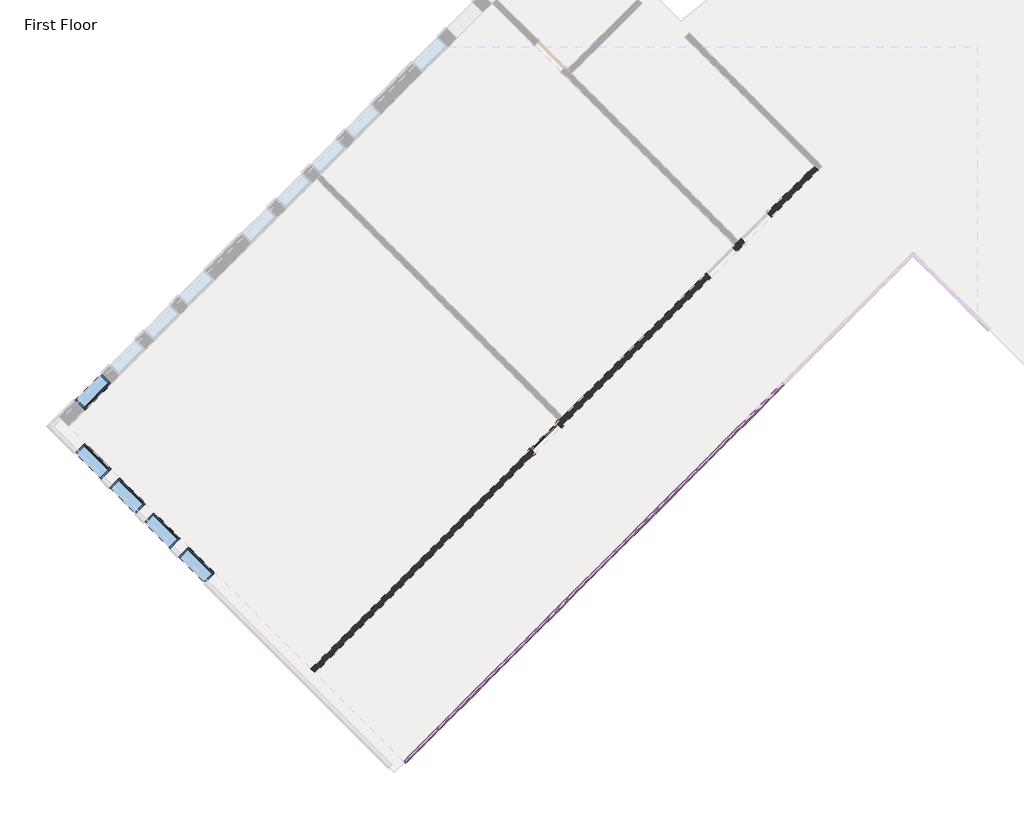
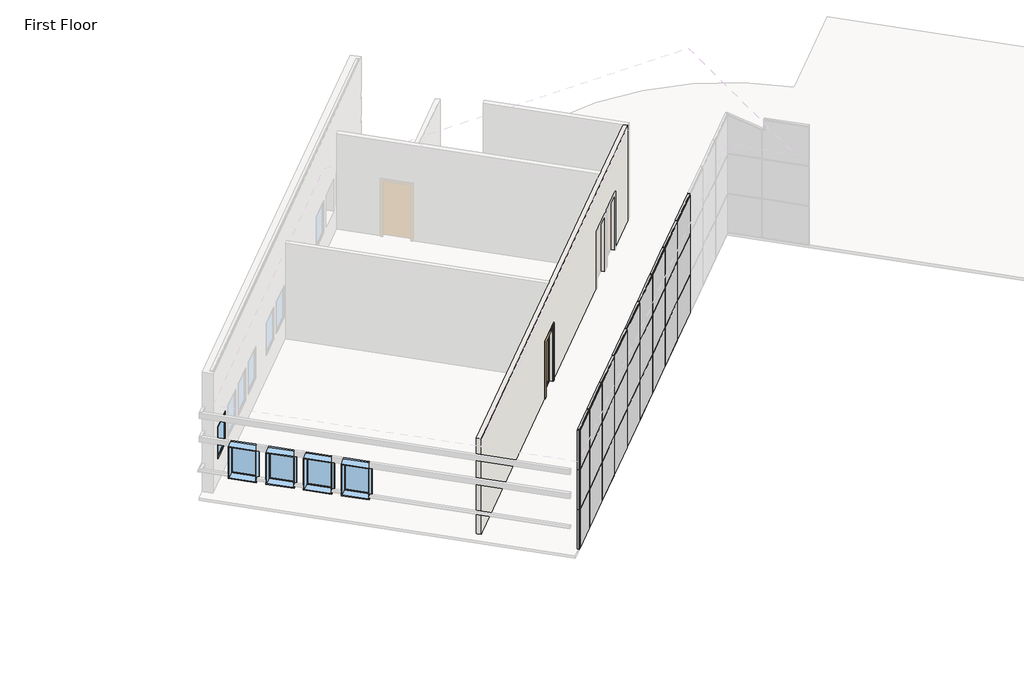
# One storey, part 1 of 5: 65 members, 27 plates, 5 windows, 1 door, 1 wall.
"""IFC4 building model written with IfcOpenShell, lengths in millimetres."""

from ifc_helpers import new_model, si_unit, origin, place, context, project, spatial, faceted_brep, transform, mapped, element, save
from components import door_b81abb0e, member_6121af53, member_155beb68, member_bd80eb51, member_42be4715, member_a3731390, member_b87a50da, system_panel_glazed_da345f4e, system_panel_glazed_f1e4c5b0, system_panel_glazed_b4114ee2, system_panel_glazed_dc791129, system_panel_solid_2f1037e2, system_panel_solid_6e0f4c8d, window_15c49d37, window_0e2fc6ce

model = new_model("IFC4")

# Units and contexts
model_context = context("Model", 3, world=origin())
ifc_project = project(units=[si_unit("LENGTHUNIT", "METRE", prefix="MILLI")], contexts=[model_context])

# Site, building, storey
site = spatial("IfcSite", under=ifc_project)
building = spatial("IfcBuilding", under=site)
storey = spatial("IfcBuildingStorey", under=building, Name="First Floor", Elevation=0.0)

# Door
placement = place(None, origin())
door_shape = door_b81abb0e(model_context)
element("IfcDoor", 1, ObjectType="Single-Glass 1 : 36\" x 84\"", at=placement, inside=storey, context=model_context, shape_type="MappedRepresentation", body=[
    mapped(door_shape, transform((-12027.7718255, -1647.4849877, 0.0), x_axis=(0.7071067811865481, 0.7071067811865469, 0.0), y_axis=(-0.7071067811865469, 0.7071067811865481, 0.0), z_axis=(0.0, 0.0, 1.0))),
])

# Members
member_shape = member_6121af53(model_context)
element("IfcMember", 2, ObjectType="Rectangular Mullion : 1.5\" x 2.5\" Rectangular", at=placement, inside=storey, context=model_context, shape_type="MappedRepresentation", body=[
    mapped(member_shape, transform((-10397.9731218, -4577.4113295, 4572.0), x_axis=(0.0, 0.0, 1.0), y_axis=(-0.7071067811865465, 0.7071067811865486, 0.0), z_axis=(-0.7071067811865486, -0.7071067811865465, 0.0))),
])
element("IfcMember", 3, ObjectType="Rectangular Mullion : 1.5\" x 2.5\" Rectangular", at=placement, inside=storey, context=model_context, shape_type="MappedRepresentation", body=[
    mapped(member_shape, transform((-11475.6038564, -5655.042064, 4572.0), x_axis=(0.0, 0.0, 1.0), y_axis=(-0.7071067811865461, 0.707106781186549, 0.0), z_axis=(-0.7071067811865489, -0.707106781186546, 0.0))),
])
element("IfcMember", 4, ObjectType="Rectangular Mullion : 1.5\" x 2.5\" Rectangular", at=placement, inside=storey, context=model_context, shape_type="MappedRepresentation", body=[
    mapped(member_shape, transform((-12553.2345909, -6732.6727986, 4572.0), x_axis=(0.0, 0.0, 1.0), y_axis=(-0.7071067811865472, 0.7071067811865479, 0.0), z_axis=(-0.7071067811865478, -0.7071067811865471, 0.0))),
])
element("IfcMember", 5, ObjectType="Rectangular Mullion : 1.5\" x 2.5\" Rectangular", at=placement, inside=storey, context=model_context, shape_type="MappedRepresentation", body=[
    mapped(member_shape, transform((-13630.8653254, -7810.3035331, 4572.0), x_axis=(0.0, 0.0, 1.0), y_axis=(-0.7071067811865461, 0.707106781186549, 0.0), z_axis=(-0.707106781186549, -0.7071067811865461, 0.0))),
])
element("IfcMember", 6, ObjectType="Rectangular Mullion : 1.5\" x 2.5\" Rectangular", at=placement, inside=storey, context=model_context, shape_type="MappedRepresentation", body=[
    mapped(member_shape, transform((-14708.4960599, -8887.9342676, 4572.0), x_axis=(0.0, 0.0, 1.0), y_axis=(-0.7071067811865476, 0.7071067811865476, 0.0), z_axis=(-0.7071067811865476, -0.7071067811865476, 0.0))),
])
element("IfcMember", 7, ObjectType="Rectangular Mullion : 1.5\" x 2.5\" Rectangular", at=placement, inside=storey, context=model_context, shape_type="MappedRepresentation", body=[
    mapped(member_shape, transform((-7165.0809182, -1344.5191259, 4572.0), x_axis=(0.0, 0.0, 1.0), y_axis=(-0.7071067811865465, 0.7071067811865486, 0.0), z_axis=(-0.7071067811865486, -0.7071067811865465, 0.0))),
])
element("IfcMember", 8, ObjectType="Rectangular Mullion : 1.5\" x 2.5\" Rectangular", at=placement, inside=storey, context=model_context, shape_type="MappedRepresentation", body=[
    mapped(member_shape, transform((-8242.7116528, -2422.1498604, 4572.0), x_axis=(0.0, 0.0, 1.0), y_axis=(-0.7071067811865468, 0.7071067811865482, 0.0), z_axis=(-0.7071067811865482, -0.7071067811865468, 0.0))),
])
element("IfcMember", 9, ObjectType="Rectangular Mullion : 1.5\" x 2.5\" Rectangular", at=placement, inside=storey, context=model_context, shape_type="MappedRepresentation", body=[
    mapped(member_shape, transform((-9320.3423873, -3499.780595, 4572.0), x_axis=(0.0, 0.0, 1.0), y_axis=(-0.7071067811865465, 0.7071067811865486, 0.0), z_axis=(-0.7071067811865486, -0.7071067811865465, 0.0))),
])
member_2_shape = member_155beb68(model_context)
element("IfcMember", 10, ObjectType="Rectangular Mullion : 1.5\" x 2.5\" Rectangular", at=placement, inside=storey, context=model_context, shape_type="MappedRepresentation", body=[
    mapped(member_2_shape, transform((-6100.9205679, -280.3587756, 1524.0), x_axis=(-0.7071067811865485, -0.7071067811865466, 0.0), y_axis=(-0.7071067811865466, 0.7071067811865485, 0.0), z_axis=(0.0, 0.0, -1.0))),
])
element("IfcMember", 11, ObjectType="Rectangular Mullion : 1.5\" x 2.5\" Rectangular", at=placement, inside=storey, context=model_context, shape_type="MappedRepresentation", body=[
    mapped(member_2_shape, transform((-7178.5513024, -1357.9895101, 1524.0), x_axis=(-0.7071067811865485, -0.7071067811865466, 0.0), y_axis=(-0.7071067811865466, 0.7071067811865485, 0.0), z_axis=(0.0, 0.0, -1.0))),
])
element("IfcMember", 12, ObjectType="Rectangular Mullion : 1.5\" x 2.5\" Rectangular", at=placement, inside=storey, context=model_context, shape_type="MappedRepresentation", body=[
    mapped(member_2_shape, transform((-8256.1820369, -2435.6202446, 1524.0), x_axis=(-0.7071067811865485, -0.7071067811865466, 0.0), y_axis=(-0.7071067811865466, 0.7071067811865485, 0.0), z_axis=(0.0, 0.0, -1.0))),
])
element("IfcMember", 13, ObjectType="Rectangular Mullion : 1.5\" x 2.5\" Rectangular", at=placement, inside=storey, context=model_context, shape_type="MappedRepresentation", body=[
    mapped(member_2_shape, transform((-9333.8127715, -3513.2509792, 1524.0), x_axis=(-0.7071067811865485, -0.7071067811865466, 0.0), y_axis=(-0.7071067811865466, 0.7071067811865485, 0.0), z_axis=(0.0, 0.0, -1.0))),
])
element("IfcMember", 14, ObjectType="Rectangular Mullion : 1.5\" x 2.5\" Rectangular", at=placement, inside=storey, context=model_context, shape_type="MappedRepresentation", body=[
    mapped(member_2_shape, transform((-10411.443506, -4590.8817137, 1524.0), x_axis=(-0.7071067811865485, -0.7071067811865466, 0.0), y_axis=(-0.7071067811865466, 0.7071067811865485, 0.0), z_axis=(0.0, 0.0, -1.0))),
])
element("IfcMember", 15, ObjectType="Rectangular Mullion : 1.5\" x 2.5\" Rectangular", at=placement, inside=storey, context=model_context, shape_type="MappedRepresentation", body=[
    mapped(member_2_shape, transform((-11489.0742405, -5668.5124482, 1524.0), x_axis=(-0.7071067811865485, -0.7071067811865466, 0.0), y_axis=(-0.7071067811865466, 0.7071067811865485, 0.0), z_axis=(0.0, 0.0, -1.0))),
])
element("IfcMember", 16, ObjectType="Rectangular Mullion : 1.5\" x 2.5\" Rectangular", at=placement, inside=storey, context=model_context, shape_type="MappedRepresentation", body=[
    mapped(member_2_shape, transform((-12566.7049751, -6746.1431827, 1524.0), x_axis=(-0.7071067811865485, -0.7071067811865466, 0.0), y_axis=(-0.7071067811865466, 0.7071067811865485, 0.0), z_axis=(0.0, 0.0, -1.0))),
])
element("IfcMember", 17, ObjectType="Rectangular Mullion : 1.5\" x 2.5\" Rectangular", at=placement, inside=storey, context=model_context, shape_type="MappedRepresentation", body=[
    mapped(member_2_shape, transform((-13644.3357096, -7823.7739173, 1524.0), x_axis=(-0.7071067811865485, -0.7071067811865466, 0.0), y_axis=(-0.7071067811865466, 0.7071067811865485, 0.0), z_axis=(0.0, 0.0, -1.0))),
])
element("IfcMember", 18, ObjectType="Rectangular Mullion : 1.5\" x 2.5\" Rectangular", at=placement, inside=storey, context=model_context, shape_type="MappedRepresentation", body=[
    mapped(member_2_shape, transform((-14721.9664441, -8901.4046518, 1524.0), x_axis=(-0.7071067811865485, -0.7071067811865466, 0.0), y_axis=(-0.7071067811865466, 0.7071067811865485, 0.0), z_axis=(0.0, 0.0, -1.0))),
])
element("IfcMember", 19, ObjectType="Rectangular Mullion : 1.5\" x 2.5\" Rectangular", at=placement, inside=storey, context=model_context, shape_type="MappedRepresentation", body=[
    mapped(member_2_shape, transform((-6100.9205679, -280.3587756, 3048.0), x_axis=(-0.7071067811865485, -0.7071067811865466, 0.0), y_axis=(-0.7071067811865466, 0.7071067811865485, 0.0), z_axis=(0.0, 0.0, -1.0))),
])
element("IfcMember", 20, ObjectType="Rectangular Mullion : 1.5\" x 2.5\" Rectangular", at=placement, inside=storey, context=model_context, shape_type="MappedRepresentation", body=[
    mapped(member_2_shape, transform((-7178.5513024, -1357.9895101, 3048.0), x_axis=(-0.7071067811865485, -0.7071067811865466, 0.0), y_axis=(-0.7071067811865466, 0.7071067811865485, 0.0), z_axis=(0.0, 0.0, -1.0))),
])
element("IfcMember", 21, ObjectType="Rectangular Mullion : 1.5\" x 2.5\" Rectangular", at=placement, inside=storey, context=model_context, shape_type="MappedRepresentation", body=[
    mapped(member_2_shape, transform((-8256.1820369, -2435.6202446, 3048.0), x_axis=(-0.7071067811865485, -0.7071067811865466, 0.0), y_axis=(-0.7071067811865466, 0.7071067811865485, 0.0), z_axis=(0.0, 0.0, -1.0))),
])
element("IfcMember", 22, ObjectType="Rectangular Mullion : 1.5\" x 2.5\" Rectangular", at=placement, inside=storey, context=model_context, shape_type="MappedRepresentation", body=[
    mapped(member_2_shape, transform((-9333.8127715, -3513.2509792, 3048.0), x_axis=(-0.7071067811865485, -0.7071067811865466, 0.0), y_axis=(-0.7071067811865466, 0.7071067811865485, 0.0), z_axis=(0.0, 0.0, -1.0))),
])
element("IfcMember", 23, ObjectType="Rectangular Mullion : 1.5\" x 2.5\" Rectangular", at=placement, inside=storey, context=model_context, shape_type="MappedRepresentation", body=[
    mapped(member_2_shape, transform((-10411.443506, -4590.8817137, 3048.0), x_axis=(-0.7071067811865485, -0.7071067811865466, 0.0), y_axis=(-0.7071067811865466, 0.7071067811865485, 0.0), z_axis=(0.0, 0.0, -1.0))),
])
element("IfcMember", 24, ObjectType="Rectangular Mullion : 1.5\" x 2.5\" Rectangular", at=placement, inside=storey, context=model_context, shape_type="MappedRepresentation", body=[
    mapped(member_2_shape, transform((-11489.0742405, -5668.5124482, 3048.0), x_axis=(-0.7071067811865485, -0.7071067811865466, 0.0), y_axis=(-0.7071067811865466, 0.7071067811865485, 0.0), z_axis=(0.0, 0.0, -1.0))),
])
element("IfcMember", 25, ObjectType="Rectangular Mullion : 1.5\" x 2.5\" Rectangular", at=placement, inside=storey, context=model_context, shape_type="MappedRepresentation", body=[
    mapped(member_2_shape, transform((-12566.7049751, -6746.1431827, 3048.0), x_axis=(-0.7071067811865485, -0.7071067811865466, 0.0), y_axis=(-0.7071067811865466, 0.7071067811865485, 0.0), z_axis=(0.0, 0.0, -1.0))),
])
element("IfcMember", 26, ObjectType="Rectangular Mullion : 1.5\" x 2.5\" Rectangular", at=placement, inside=storey, context=model_context, shape_type="MappedRepresentation", body=[
    mapped(member_2_shape, transform((-13644.3357096, -7823.7739173, 3048.0), x_axis=(-0.7071067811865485, -0.7071067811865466, 0.0), y_axis=(-0.7071067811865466, 0.7071067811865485, 0.0), z_axis=(0.0, 0.0, -1.0))),
])
element("IfcMember", 27, ObjectType="Rectangular Mullion : 1.5\" x 2.5\" Rectangular", at=placement, inside=storey, context=model_context, shape_type="MappedRepresentation", body=[
    mapped(member_2_shape, transform((-14721.9664441, -8901.4046518, 3048.0), x_axis=(-0.7071067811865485, -0.7071067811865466, 0.0), y_axis=(-0.7071067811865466, 0.7071067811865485, 0.0), z_axis=(0.0, 0.0, -1.0))),
])
member_3_shape = member_bd80eb51(model_context)
element("IfcMember", 28, ObjectType="Rectangular Mullion : 1.5\" x 2.5\" Rectangular", at=placement, inside=storey, context=model_context, shape_type="MappedRepresentation", body=[
    mapped(member_3_shape, transform((-15523.4543029, -9702.8925106, 4572.0), x_axis=(0.0, 0.0, 1.0), y_axis=(-0.7071067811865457, 0.7071067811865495, 0.0), z_axis=(-0.7071067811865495, -0.7071067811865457, 0.0))),
])
element("IfcMember", 29, ObjectType="Rectangular Mullion : 1.5\" x 2.5\" Rectangular", at=placement, inside=storey, context=model_context, shape_type="MappedRepresentation", body=[
    mapped(member_2_shape, transform((-13644.3357096, -7823.7739173, 0.0), x_axis=(-0.7071067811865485, -0.7071067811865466, 0.0), y_axis=(-0.7071067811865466, 0.7071067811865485, 0.0), z_axis=(0.0, 0.0, -1.0))),
])
element("IfcMember", 30, ObjectType="Rectangular Mullion : 1.5\" x 2.5\" Rectangular", at=placement, inside=storey, context=model_context, shape_type="MappedRepresentation", body=[
    mapped(member_2_shape, transform((-14721.9664441, -8901.4046518, 0.0), x_axis=(-0.7071067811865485, -0.7071067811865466, 0.0), y_axis=(-0.7071067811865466, 0.7071067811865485, 0.0), z_axis=(0.0, 0.0, -1.0))),
])
element("IfcMember", 31, ObjectType="Rectangular Mullion : 1.5\" x 2.5\" Rectangular", at=placement, inside=storey, context=model_context, shape_type="MappedRepresentation", body=[
    mapped(member_2_shape, transform((-7178.5513024, -1357.9895101, 0.0), x_axis=(-0.7071067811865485, -0.7071067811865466, 0.0), y_axis=(-0.7071067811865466, 0.7071067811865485, 0.0), z_axis=(0.0, 0.0, -1.0))),
])
element("IfcMember", 32, ObjectType="Rectangular Mullion : 1.5\" x 2.5\" Rectangular", at=placement, inside=storey, context=model_context, shape_type="MappedRepresentation", body=[
    mapped(member_2_shape, transform((-8256.1820369, -2435.6202446, 0.0), x_axis=(-0.7071067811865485, -0.7071067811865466, 0.0), y_axis=(-0.7071067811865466, 0.7071067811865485, 0.0), z_axis=(0.0, 0.0, -1.0))),
])
element("IfcMember", 33, ObjectType="Rectangular Mullion : 1.5\" x 2.5\" Rectangular", at=placement, inside=storey, context=model_context, shape_type="MappedRepresentation", body=[
    mapped(member_2_shape, transform((-9333.8127715, -3513.2509792, 0.0), x_axis=(-0.7071067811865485, -0.7071067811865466, 0.0), y_axis=(-0.7071067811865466, 0.7071067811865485, 0.0), z_axis=(0.0, 0.0, -1.0))),
])
element("IfcMember", 34, ObjectType="Rectangular Mullion : 1.5\" x 2.5\" Rectangular", at=placement, inside=storey, context=model_context, shape_type="MappedRepresentation", body=[
    mapped(member_2_shape, transform((-10411.443506, -4590.8817137, 0.0), x_axis=(-0.7071067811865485, -0.7071067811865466, 0.0), y_axis=(-0.7071067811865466, 0.7071067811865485, 0.0), z_axis=(0.0, 0.0, -1.0))),
])
element("IfcMember", 35, ObjectType="Rectangular Mullion : 1.5\" x 2.5\" Rectangular", at=placement, inside=storey, context=model_context, shape_type="MappedRepresentation", body=[
    mapped(member_2_shape, transform((-11489.0742405, -5668.5124482, 0.0), x_axis=(-0.7071067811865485, -0.7071067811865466, 0.0), y_axis=(-0.7071067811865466, 0.7071067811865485, 0.0), z_axis=(0.0, 0.0, -1.0))),
])
element("IfcMember", 36, ObjectType="Rectangular Mullion : 1.5\" x 2.5\" Rectangular", at=placement, inside=storey, context=model_context, shape_type="MappedRepresentation", body=[
    mapped(member_2_shape, transform((-12566.7049751, -6746.1431827, 0.0), x_axis=(-0.7071067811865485, -0.7071067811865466, 0.0), y_axis=(-0.7071067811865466, 0.7071067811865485, 0.0), z_axis=(0.0, 0.0, -1.0))),
])
member_4_shape = member_42be4715(model_context)
element("IfcMember", 37, ObjectType="Rectangular Mullion : 1.5\" x 2.5\" Rectangular", at=placement, inside=storey, context=model_context, shape_type="MappedRepresentation", body=[
    mapped(member_4_shape, transform((-6087.4501837, -266.8883914, 3048.0), x_axis=(0.0, 0.0, 1.0), y_axis=(-0.7071067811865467, 0.7071067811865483, 0.0), z_axis=(-0.7071067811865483, -0.7071067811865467, 0.0))),
])
element("IfcMember", 38, ObjectType="Rectangular Mullion : 1.5\" x 2.5\" Rectangular", at=placement, inside=storey, context=model_context, shape_type="MappedRepresentation", body=[
    mapped(member_4_shape, transform((-7165.0809182, -1344.5191259, 3048.0), x_axis=(0.0, 0.0, 1.0), y_axis=(-0.7071067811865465, 0.7071067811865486, 0.0), z_axis=(-0.7071067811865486, -0.7071067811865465, 0.0))),
])
element("IfcMember", 39, ObjectType="Rectangular Mullion : 1.5\" x 2.5\" Rectangular", at=placement, inside=storey, context=model_context, shape_type="MappedRepresentation", body=[
    mapped(member_4_shape, transform((-8242.7116528, -2422.1498604, 3048.0), x_axis=(0.0, 0.0, 1.0), y_axis=(-0.7071067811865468, 0.7071067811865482, 0.0), z_axis=(-0.7071067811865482, -0.7071067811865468, 0.0))),
])
element("IfcMember", 40, ObjectType="Rectangular Mullion : 1.5\" x 2.5\" Rectangular", at=placement, inside=storey, context=model_context, shape_type="MappedRepresentation", body=[
    mapped(member_4_shape, transform((-9320.3423873, -3499.780595, 3048.0), x_axis=(0.0, 0.0, 1.0), y_axis=(-0.7071067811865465, 0.7071067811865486, 0.0), z_axis=(-0.7071067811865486, -0.7071067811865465, 0.0))),
])
element("IfcMember", 41, ObjectType="Rectangular Mullion : 1.5\" x 2.5\" Rectangular", at=placement, inside=storey, context=model_context, shape_type="MappedRepresentation", body=[
    mapped(member_4_shape, transform((-10397.9731218, -4577.4113295, 3048.0), x_axis=(0.0, 0.0, 1.0), y_axis=(-0.7071067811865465, 0.7071067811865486, 0.0), z_axis=(-0.7071067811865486, -0.7071067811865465, 0.0))),
])
element("IfcMember", 42, ObjectType="Rectangular Mullion : 1.5\" x 2.5\" Rectangular", at=placement, inside=storey, context=model_context, shape_type="MappedRepresentation", body=[
    mapped(member_4_shape, transform((-11475.6038564, -5655.042064, 3048.0), x_axis=(0.0, 0.0, 1.0), y_axis=(-0.7071067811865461, 0.707106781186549, 0.0), z_axis=(-0.7071067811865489, -0.707106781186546, 0.0))),
])
element("IfcMember", 43, ObjectType="Rectangular Mullion : 1.5\" x 2.5\" Rectangular", at=placement, inside=storey, context=model_context, shape_type="MappedRepresentation", body=[
    mapped(member_4_shape, transform((-12553.2345909, -6732.6727986, 3048.0), x_axis=(0.0, 0.0, 1.0), y_axis=(-0.7071067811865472, 0.7071067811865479, 0.0), z_axis=(-0.7071067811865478, -0.7071067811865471, 0.0))),
])
element("IfcMember", 44, ObjectType="Rectangular Mullion : 1.5\" x 2.5\" Rectangular", at=placement, inside=storey, context=model_context, shape_type="MappedRepresentation", body=[
    mapped(member_4_shape, transform((-7165.0809182, -1344.5191259, 1524.0), x_axis=(0.0, 0.0, 1.0), y_axis=(-0.7071067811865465, 0.7071067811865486, 0.0), z_axis=(-0.7071067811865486, -0.7071067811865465, 0.0))),
])
element("IfcMember", 45, ObjectType="Rectangular Mullion : 1.5\" x 2.5\" Rectangular", at=placement, inside=storey, context=model_context, shape_type="MappedRepresentation", body=[
    mapped(member_4_shape, transform((-8242.7116528, -2422.1498604, 1524.0), x_axis=(0.0, 0.0, 1.0), y_axis=(-0.7071067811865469, 0.7071067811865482, 0.0), z_axis=(-0.7071067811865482, -0.7071067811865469, 0.0))),
])
element("IfcMember", 46, ObjectType="Rectangular Mullion : 1.5\" x 2.5\" Rectangular", at=placement, inside=storey, context=model_context, shape_type="MappedRepresentation", body=[
    mapped(member_4_shape, transform((-9320.3423873, -3499.780595, 1524.0), x_axis=(0.0, 0.0, 1.0), y_axis=(-0.7071067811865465, 0.7071067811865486, 0.0), z_axis=(-0.7071067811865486, -0.7071067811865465, 0.0))),
])
element("IfcMember", 47, ObjectType="Rectangular Mullion : 1.5\" x 2.5\" Rectangular", at=placement, inside=storey, context=model_context, shape_type="MappedRepresentation", body=[
    mapped(member_4_shape, transform((-10397.9731218, -4577.4113295, 1524.0), x_axis=(0.0, 0.0, 1.0), y_axis=(-0.7071067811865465, 0.7071067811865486, 0.0), z_axis=(-0.7071067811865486, -0.7071067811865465, 0.0))),
])
element("IfcMember", 48, ObjectType="Rectangular Mullion : 1.5\" x 2.5\" Rectangular", at=placement, inside=storey, context=model_context, shape_type="MappedRepresentation", body=[
    mapped(member_4_shape, transform((-11475.6038564, -5655.042064, 1524.0), x_axis=(0.0, 0.0, 1.0), y_axis=(-0.7071067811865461, 0.707106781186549, 0.0), z_axis=(-0.7071067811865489, -0.707106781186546, 0.0))),
])
element("IfcMember", 49, ObjectType="Rectangular Mullion : 1.5\" x 2.5\" Rectangular", at=placement, inside=storey, context=model_context, shape_type="MappedRepresentation", body=[
    mapped(member_4_shape, transform((-12553.2345909, -6732.6727986, 1524.0), x_axis=(0.0, 0.0, 1.0), y_axis=(-0.7071067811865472, 0.7071067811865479, 0.0), z_axis=(-0.7071067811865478, -0.7071067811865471, 0.0))),
])
element("IfcMember", 50, ObjectType="Rectangular Mullion : 1.5\" x 2.5\" Rectangular", at=placement, inside=storey, context=model_context, shape_type="MappedRepresentation", body=[
    mapped(member_4_shape, transform((-13630.8653254, -7810.3035331, 1524.0), x_axis=(0.0, 0.0, 1.0), y_axis=(-0.7071067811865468, 0.7071067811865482, 0.0), z_axis=(-0.7071067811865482, -0.7071067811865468, 0.0))),
])
element("IfcMember", 51, ObjectType="Rectangular Mullion : 1.5\" x 2.5\" Rectangular", at=placement, inside=storey, context=model_context, shape_type="MappedRepresentation", body=[
    mapped(member_4_shape, transform((-14708.4960599, -8887.9342676, 1524.0), x_axis=(0.0, 0.0, 1.0), y_axis=(-0.7071067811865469, 0.7071067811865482, 0.0), z_axis=(-0.7071067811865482, -0.7071067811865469, 0.0))),
])
element("IfcMember", 52, ObjectType="Rectangular Mullion : 1.5\" x 2.5\" Rectangular", at=placement, inside=storey, context=model_context, shape_type="MappedRepresentation", body=[
    mapped(member_4_shape, transform((-13630.8653254, -7810.3035331, 3048.0), x_axis=(0.0, 0.0, 1.0), y_axis=(-0.7071067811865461, 0.707106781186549, 0.0), z_axis=(-0.707106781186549, -0.7071067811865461, 0.0))),
])
element("IfcMember", 53, ObjectType="Rectangular Mullion : 1.5\" x 2.5\" Rectangular", at=placement, inside=storey, context=model_context, shape_type="MappedRepresentation", body=[
    mapped(member_4_shape, transform((-14708.4960599, -8887.9342676, 3048.0), x_axis=(0.0, 0.0, 1.0), y_axis=(-0.7071067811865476, 0.7071067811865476, 0.0), z_axis=(-0.7071067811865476, -0.7071067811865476, 0.0))),
])
element("IfcMember", 54, ObjectType="Rectangular Mullion : 1.5\" x 2.5\" Rectangular", at=placement, inside=storey, context=model_context, shape_type="MappedRepresentation", body=[
    mapped(member_shape, transform((-12580.1753592, -6759.6135669, 0.0), x_axis=(0.0, 0.0, -1.0), y_axis=(-0.7071067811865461, 0.707106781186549, 0.0), z_axis=(0.707106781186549, 0.7071067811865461, 0.0))),
])
element("IfcMember", 55, ObjectType="Rectangular Mullion : 1.5\" x 2.5\" Rectangular", at=placement, inside=storey, context=model_context, shape_type="MappedRepresentation", body=[
    mapped(member_shape, transform((-13657.8060938, -7837.2443014, 0.0), x_axis=(0.0, 0.0, -1.0), y_axis=(-0.7071067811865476, 0.7071067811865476, 0.0), z_axis=(0.7071067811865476, 0.7071067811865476, 0.0))),
])
element("IfcMember", 56, ObjectType="Rectangular Mullion : 1.5\" x 2.5\" Rectangular", at=placement, inside=storey, context=model_context, shape_type="MappedRepresentation", body=[
    mapped(member_shape, transform((-7192.0216866, -1371.4598943, 0.0), x_axis=(0.0, 0.0, -1.0), y_axis=(-0.7071067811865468, 0.7071067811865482, 0.0), z_axis=(0.7071067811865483, 0.7071067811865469, 0.0))),
])
element("IfcMember", 57, ObjectType="Rectangular Mullion : 1.5\" x 2.5\" Rectangular", at=placement, inside=storey, context=model_context, shape_type="MappedRepresentation", body=[
    mapped(member_shape, transform((-8269.6524211, -2449.0906288, 0.0), x_axis=(0.0, 0.0, -1.0), y_axis=(-0.7071067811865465, 0.7071067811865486, 0.0), z_axis=(0.7071067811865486, 0.7071067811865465, 0.0))),
])
element("IfcMember", 58, ObjectType="Rectangular Mullion : 1.5\" x 2.5\" Rectangular", at=placement, inside=storey, context=model_context, shape_type="MappedRepresentation", body=[
    mapped(member_shape, transform((-9347.2831557, -3526.7213633, 0.0), x_axis=(0.0, 0.0, -1.0), y_axis=(-0.7071067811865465, 0.7071067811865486, 0.0), z_axis=(0.7071067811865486, 0.7071067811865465, 0.0))),
])
element("IfcMember", 59, ObjectType="Rectangular Mullion : 1.5\" x 2.5\" Rectangular", at=placement, inside=storey, context=model_context, shape_type="MappedRepresentation", body=[
    mapped(member_shape, transform((-10424.9138902, -4604.3520979, 0.0), x_axis=(0.0, 0.0, -1.0), y_axis=(-0.7071067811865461, 0.707106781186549, 0.0), z_axis=(0.7071067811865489, 0.707106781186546, 0.0))),
])
element("IfcMember", 60, ObjectType="Rectangular Mullion : 1.5\" x 2.5\" Rectangular", at=placement, inside=storey, context=model_context, shape_type="MappedRepresentation", body=[
    mapped(member_shape, transform((-11502.5446247, -5681.9828324, 0.0), x_axis=(0.0, 0.0, -1.0), y_axis=(-0.7071067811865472, 0.7071067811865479, 0.0), z_axis=(0.7071067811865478, 0.7071067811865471, 0.0))),
])
element("IfcMember", 61, ObjectType="Rectangular Mullion : 1.5\" x 2.5\" Rectangular", at=placement, inside=storey, context=model_context, shape_type="MappedRepresentation", body=[
    mapped(member_3_shape, transform((-14735.4368283, -8914.875036, 0.0), x_axis=(0.0, 0.0, -1.0), y_axis=(-0.7071067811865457, 0.7071067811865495, 0.0), z_axis=(0.7071067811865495, 0.7071067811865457, 0.0))),
])
member_5_shape = member_a3731390(model_context)
element("IfcMember", 62, ObjectType="Rectangular Mullion : 1.5\" x 2.5\" Rectangular", at=placement, inside=storey, context=model_context, shape_type="MappedRepresentation", body=[
    mapped(member_5_shape, transform((-15523.4543029, -9702.8925106, 1524.0), x_axis=(0.0, 0.0, 1.0), y_axis=(-0.7071067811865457, 0.7071067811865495, 0.0), z_axis=(-0.7071067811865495, -0.7071067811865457, 0.0))),
])
element("IfcMember", 63, ObjectType="Rectangular Mullion : 1.5\" x 2.5\" Rectangular", at=placement, inside=storey, context=model_context, shape_type="MappedRepresentation", body=[
    mapped(member_5_shape, transform((-15523.4543029, -9702.8925106, 3048.0), x_axis=(0.0, 0.0, 1.0), y_axis=(-0.7071067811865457, 0.7071067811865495, 0.0), z_axis=(-0.7071067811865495, -0.7071067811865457, 0.0))),
])
member_6_shape = member_b87a50da(model_context)
element("IfcMember", 64, ObjectType="Rectangular Mullion : 1.5\" x 2.5\" Rectangular", at=placement, inside=storey, context=model_context, shape_type="MappedRepresentation", body=[
    mapped(member_6_shape, transform((-15550.3950713, -9729.833279, 0.0), x_axis=(-0.7071067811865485, -0.7071067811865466, 0.0), y_axis=(-0.7071067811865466, 0.7071067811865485, 0.0), z_axis=(0.0, 0.0, -1.0))),
])
element("IfcMember", 65, ObjectType="Rectangular Mullion : 1.5\" x 2.5\" Rectangular", at=placement, inside=storey, context=model_context, shape_type="MappedRepresentation", body=[
    mapped(member_6_shape, transform((-15550.3950713, -9729.833279, 1524.0), x_axis=(-0.7071067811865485, -0.7071067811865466, 0.0), y_axis=(-0.7071067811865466, 0.7071067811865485, 0.0), z_axis=(0.0, 0.0, -1.0))),
])
element("IfcMember", 66, ObjectType="Rectangular Mullion : 1.5\" x 2.5\" Rectangular", at=placement, inside=storey, context=model_context, shape_type="MappedRepresentation", body=[
    mapped(member_6_shape, transform((-15550.3950713, -9729.833279, 3048.0), x_axis=(-0.7071067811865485, -0.7071067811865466, 0.0), y_axis=(-0.7071067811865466, 0.7071067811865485, 0.0), z_axis=(0.0, 0.0, -1.0))),
])

# Plates
system_panel_glazed_shape = system_panel_glazed_da345f4e(model_context)
element("IfcPlate", 67, ObjectType="System Panel : Glazed", at=placement, inside=storey, context=model_context, shape_type="MappedRepresentation", body=[
    mapped(system_panel_glazed_shape, transform((-6639.7359352, -819.1741428, 38.1), x_axis=(-0.7071067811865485, -0.7071067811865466, 0.0), y_axis=(0.7071067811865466, -0.7071067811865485, 0.0), z_axis=(0.0, 0.0, 1.0))),
])
element("IfcPlate", 68, ObjectType="System Panel : Glazed", at=placement, inside=storey, context=model_context, shape_type="MappedRepresentation", body=[
    mapped(system_panel_glazed_shape, transform((-7717.3666697, -1896.8048774, 38.1), x_axis=(-0.7071067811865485, -0.7071067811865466, 0.0), y_axis=(0.7071067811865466, -0.7071067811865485, 0.0), z_axis=(0.0, 0.0, 1.0))),
])
element("IfcPlate", 69, ObjectType="System Panel : Glazed", at=placement, inside=storey, context=model_context, shape_type="MappedRepresentation", body=[
    mapped(system_panel_glazed_shape, transform((-8794.9974042, -2974.4356119, 38.1), x_axis=(-0.7071067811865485, -0.7071067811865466, 0.0), y_axis=(0.7071067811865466, -0.7071067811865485, 0.0), z_axis=(0.0, 0.0, 1.0))),
])
element("IfcPlate", 70, ObjectType="System Panel : Glazed", at=placement, inside=storey, context=model_context, shape_type="MappedRepresentation", body=[
    mapped(system_panel_glazed_shape, transform((-9872.6281387, -4052.0663464, 38.1), x_axis=(-0.7071067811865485, -0.7071067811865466, 0.0), y_axis=(0.7071067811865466, -0.7071067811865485, 0.0), z_axis=(0.0, 0.0, 1.0))),
])
element("IfcPlate", 71, ObjectType="System Panel : Glazed", at=placement, inside=storey, context=model_context, shape_type="MappedRepresentation", body=[
    mapped(system_panel_glazed_shape, transform((-10950.2588733, -5129.6970809, 38.1), x_axis=(-0.7071067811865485, -0.7071067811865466, 0.0), y_axis=(0.7071067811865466, -0.7071067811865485, 0.0), z_axis=(0.0, 0.0, 1.0))),
])
element("IfcPlate", 72, ObjectType="System Panel : Glazed", at=placement, inside=storey, context=model_context, shape_type="MappedRepresentation", body=[
    mapped(system_panel_glazed_shape, transform((-12027.8896078, -6207.3278155, 38.1), x_axis=(-0.7071067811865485, -0.7071067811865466, 0.0), y_axis=(0.7071067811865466, -0.7071067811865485, 0.0), z_axis=(0.0, 0.0, 1.0))),
])
element("IfcPlate", 73, ObjectType="System Panel : Glazed", at=placement, inside=storey, context=model_context, shape_type="MappedRepresentation", body=[
    mapped(system_panel_glazed_shape, transform((-13105.5203423, -7284.95855, 38.1), x_axis=(-0.7071067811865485, -0.7071067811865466, 0.0), y_axis=(0.7071067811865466, -0.7071067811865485, 0.0), z_axis=(0.0, 0.0, 1.0))),
])
element("IfcPlate", 74, ObjectType="System Panel : Glazed", at=placement, inside=storey, context=model_context, shape_type="MappedRepresentation", body=[
    mapped(system_panel_glazed_shape, transform((-14183.1510769, -8362.5892845, 38.1), x_axis=(-0.7071067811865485, -0.7071067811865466, 0.0), y_axis=(0.7071067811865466, -0.7071067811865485, 0.0), z_axis=(0.0, 0.0, 1.0))),
])
system_panel_glazed_2_shape = system_panel_glazed_f1e4c5b0(model_context)
element("IfcPlate", 75, ObjectType="System Panel : Glazed", at=placement, inside=storey, context=model_context, shape_type="MappedRepresentation", body=[
    mapped(system_panel_glazed_2_shape, transform((-6639.7359352, -819.1741428, 1543.05), x_axis=(-0.7071067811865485, -0.7071067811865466, 0.0), y_axis=(0.7071067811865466, -0.7071067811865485, 0.0), z_axis=(0.0, 0.0, 1.0))),
])
element("IfcPlate", 76, ObjectType="System Panel : Glazed", at=placement, inside=storey, context=model_context, shape_type="MappedRepresentation", body=[
    mapped(system_panel_glazed_2_shape, transform((-7717.3666697, -1896.8048774, 1543.05), x_axis=(-0.7071067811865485, -0.7071067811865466, 0.0), y_axis=(0.7071067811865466, -0.7071067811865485, 0.0), z_axis=(0.0, 0.0, 1.0))),
])
element("IfcPlate", 77, ObjectType="System Panel : Glazed", at=placement, inside=storey, context=model_context, shape_type="MappedRepresentation", body=[
    mapped(system_panel_glazed_2_shape, transform((-8794.9974042, -2974.4356119, 1543.05), x_axis=(-0.7071067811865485, -0.7071067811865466, 0.0), y_axis=(0.7071067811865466, -0.7071067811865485, 0.0), z_axis=(0.0, 0.0, 1.0))),
])
element("IfcPlate", 78, ObjectType="System Panel : Glazed", at=placement, inside=storey, context=model_context, shape_type="MappedRepresentation", body=[
    mapped(system_panel_glazed_2_shape, transform((-9872.6281387, -4052.0663464, 1543.05), x_axis=(-0.7071067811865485, -0.7071067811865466, 0.0), y_axis=(0.7071067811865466, -0.7071067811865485, 0.0), z_axis=(0.0, 0.0, 1.0))),
])
element("IfcPlate", 79, ObjectType="System Panel : Glazed", at=placement, inside=storey, context=model_context, shape_type="MappedRepresentation", body=[
    mapped(system_panel_glazed_2_shape, transform((-10950.2588733, -5129.6970809, 1543.05), x_axis=(-0.7071067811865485, -0.7071067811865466, 0.0), y_axis=(0.7071067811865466, -0.7071067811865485, 0.0), z_axis=(0.0, 0.0, 1.0))),
])
element("IfcPlate", 80, ObjectType="System Panel : Glazed", at=placement, inside=storey, context=model_context, shape_type="MappedRepresentation", body=[
    mapped(system_panel_glazed_2_shape, transform((-12027.8896078, -6207.3278155, 1543.05), x_axis=(-0.7071067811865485, -0.7071067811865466, 0.0), y_axis=(0.7071067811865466, -0.7071067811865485, 0.0), z_axis=(0.0, 0.0, 1.0))),
])
element("IfcPlate", 81, ObjectType="System Panel : Glazed", at=placement, inside=storey, context=model_context, shape_type="MappedRepresentation", body=[
    mapped(system_panel_glazed_2_shape, transform((-13105.5203423, -7284.95855, 1543.05), x_axis=(-0.7071067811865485, -0.7071067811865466, 0.0), y_axis=(0.7071067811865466, -0.7071067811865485, 0.0), z_axis=(0.0, 0.0, 1.0))),
])
element("IfcPlate", 82, ObjectType="System Panel : Glazed", at=placement, inside=storey, context=model_context, shape_type="MappedRepresentation", body=[
    mapped(system_panel_glazed_2_shape, transform((-14183.1510769, -8362.5892845, 1543.05), x_axis=(-0.7071067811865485, -0.7071067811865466, 0.0), y_axis=(0.7071067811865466, -0.7071067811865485, 0.0), z_axis=(0.0, 0.0, 1.0))),
])
system_panel_glazed_3_shape = system_panel_glazed_b4114ee2(model_context)
element("IfcPlate", 83, ObjectType="System Panel : Glazed", at=placement, inside=storey, context=model_context, shape_type="MappedRepresentation", body=[
    mapped(system_panel_glazed_3_shape, transform((-15129.4455656, -9308.8837733, 38.1), x_axis=(-0.7071067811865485, -0.7071067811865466, 0.0), y_axis=(0.7071067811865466, -0.7071067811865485, 0.0), z_axis=(0.0, 0.0, 1.0))),
])
system_panel_glazed_4_shape = system_panel_glazed_dc791129(model_context)
element("IfcPlate", 84, ObjectType="System Panel : Glazed", at=placement, inside=storey, context=model_context, shape_type="MappedRepresentation", body=[
    mapped(system_panel_glazed_4_shape, transform((-15129.4455656, -9308.8837733, 1543.05), x_axis=(-0.7071067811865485, -0.7071067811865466, 0.0), y_axis=(0.7071067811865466, -0.7071067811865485, 0.0), z_axis=(0.0, 0.0, 1.0))),
])
system_panel_solid_shape = system_panel_solid_2f1037e2(model_context)
element("IfcPlate", 85, ObjectType="System Panel : Solid", at=placement, inside=storey, context=model_context, shape_type="MappedRepresentation", body=[
    mapped(system_panel_solid_shape, transform((-6639.7359352, -819.1741428, 3067.05), x_axis=(-0.7071067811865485, -0.7071067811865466, 0.0), y_axis=(0.7071067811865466, -0.7071067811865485, 0.0), z_axis=(0.0, 0.0, 1.0))),
])
element("IfcPlate", 86, ObjectType="System Panel : Solid", at=placement, inside=storey, context=model_context, shape_type="MappedRepresentation", body=[
    mapped(system_panel_solid_shape, transform((-7717.3666697, -1896.8048774, 3067.05), x_axis=(-0.7071067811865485, -0.7071067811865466, 0.0), y_axis=(0.7071067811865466, -0.7071067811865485, 0.0), z_axis=(0.0, 0.0, 1.0))),
])
element("IfcPlate", 87, ObjectType="System Panel : Solid", at=placement, inside=storey, context=model_context, shape_type="MappedRepresentation", body=[
    mapped(system_panel_solid_shape, transform((-8794.9974042, -2974.4356119, 3067.05), x_axis=(-0.7071067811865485, -0.7071067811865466, 0.0), y_axis=(0.7071067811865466, -0.7071067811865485, 0.0), z_axis=(0.0, 0.0, 1.0))),
])
element("IfcPlate", 88, ObjectType="System Panel : Solid", at=placement, inside=storey, context=model_context, shape_type="MappedRepresentation", body=[
    mapped(system_panel_solid_shape, transform((-9872.6281387, -4052.0663464, 3067.05), x_axis=(-0.7071067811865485, -0.7071067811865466, 0.0), y_axis=(0.7071067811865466, -0.7071067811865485, 0.0), z_axis=(0.0, 0.0, 1.0))),
])
element("IfcPlate", 89, ObjectType="System Panel : Solid", at=placement, inside=storey, context=model_context, shape_type="MappedRepresentation", body=[
    mapped(system_panel_solid_shape, transform((-10950.2588733, -5129.6970809, 3067.05), x_axis=(-0.7071067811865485, -0.7071067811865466, 0.0), y_axis=(0.7071067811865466, -0.7071067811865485, 0.0), z_axis=(0.0, 0.0, 1.0))),
])
element("IfcPlate", 90, ObjectType="System Panel : Solid", at=placement, inside=storey, context=model_context, shape_type="MappedRepresentation", body=[
    mapped(system_panel_solid_shape, transform((-12027.8896078, -6207.3278155, 3067.05), x_axis=(-0.7071067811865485, -0.7071067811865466, 0.0), y_axis=(0.7071067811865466, -0.7071067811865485, 0.0), z_axis=(0.0, 0.0, 1.0))),
])
element("IfcPlate", 91, ObjectType="System Panel : Solid", at=placement, inside=storey, context=model_context, shape_type="MappedRepresentation", body=[
    mapped(system_panel_solid_shape, transform((-13105.5203423, -7284.95855, 3067.05), x_axis=(-0.7071067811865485, -0.7071067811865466, 0.0), y_axis=(0.7071067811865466, -0.7071067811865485, 0.0), z_axis=(0.0, 0.0, 1.0))),
])
element("IfcPlate", 92, ObjectType="System Panel : Solid", at=placement, inside=storey, context=model_context, shape_type="MappedRepresentation", body=[
    mapped(system_panel_solid_shape, transform((-14183.1510769, -8362.5892845, 3067.05), x_axis=(-0.7071067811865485, -0.7071067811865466, 0.0), y_axis=(0.7071067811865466, -0.7071067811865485, 0.0), z_axis=(0.0, 0.0, 1.0))),
])
system_panel_solid_2_shape = system_panel_solid_6e0f4c8d(model_context)
element("IfcPlate", 93, ObjectType="System Panel : Solid", at=placement, inside=storey, context=model_context, shape_type="MappedRepresentation", body=[
    mapped(system_panel_solid_2_shape, transform((-15129.4455656, -9308.8837733, 3067.05), x_axis=(-0.7071067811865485, -0.7071067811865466, 0.0), y_axis=(0.7071067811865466, -0.7071067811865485, 0.0), z_axis=(0.0, 0.0, 1.0))),
])

# Wall
element("IfcWall", 94, ObjectType="Interior - 6 1/8\" Partition (2-hr)", at=placement, inside=storey, context=model_context, shape_type="Brep", body=[
    faceted_brep([(-7264.9862676, 3005.2924327, 0.0), (-7049.4601207, 3220.8185796, 0.0), (-7049.4601207, 3220.8185796, 2133.6), (-6402.88168, 3867.3970204, 2133.6), (-6402.88168, 3867.3970204, 0.0), (-5238.5804157, 5031.6982846, 0.0), (-5238.5804157, 5031.6982846, 3657.6), (-17775.2535253, -7504.974825, 3657.6), (-17775.2535253, -7504.974825, 0.0), (-12296.0569771, -2025.7782768, 0.0), (-12296.0569771, -2025.7782768, 2133.6), (-11649.4785364, -1379.1998361, 2133.6), (-11649.4785364, -1379.1998361, 0.0), (-7911.5647083, 2358.713992, 0.0), (-7911.5647083, 2358.713992, 2133.6), (-7264.9862676, 3005.2924327, 2133.6), (-7159.4682582, 3330.8267171, 2133.6), (-7159.4682582, 3330.8267171, 0.0), (-7212.2272629, 3278.0677124, 0.0), (-7322.2354004, 3168.0595749, 0.0), (-7374.9944051, 3115.3005702, 0.0), (-7374.9944051, 3115.3005702, 2133.6), (-8021.5728458, 2468.7221295, 2133.6), (-8021.5728458, 2468.7221295, 0.0), (-11596.7195317, -1106.4245564, 0.0), (-11706.7276692, -1216.4326939, 0.0), (-11759.4866739, -1269.1916986, 0.0), (-11759.4866739, -1269.1916986, 2133.6), (-12406.0651146, -1915.7701393, 2133.6), (-12406.0651146, -1915.7701393, 0.0), (-17885.2616628, -7394.9666875, 0.0), (-17885.2616628, -7394.9666875, 3657.6), (-11706.7276692, -1216.4326939, 3657.6), (-11596.7195317, -1106.4245564, 3657.6), (-7322.2354004, 3168.0595749, 3657.6), (-7212.2272629, 3278.0677124, 3657.6), (-5348.5885532, 5141.7064221, 3657.6), (-5348.5885532, 5141.7064221, 0.0), (-6512.8898174, 3977.4051578, 0.0), (-6512.8898174, 3977.4051578, 2133.6)], [[[0, 1, 2, 3, 4, 5, 6, 7, 8, 9, 10, 11, 12, 13, 14, 15]], [[16, 17, 18, 19, 20, 21, 22, 23, 24, 25, 26, 27, 28, 29, 30, 31, 32, 33, 34, 35, 36, 37, 38, 39]], [[20, 19, 18, 17, 1, 0]], [[9, 8, 30, 29]], [[13, 12, 26, 25, 24, 23]], [[38, 37, 5, 4]], [[7, 6, 36, 35, 34, 33, 32, 31]], [[8, 7, 31, 30]], [[6, 5, 37, 36]], [[27, 26, 12, 11]], [[28, 27, 11, 10]], [[29, 28, 10, 9]], [[21, 20, 0, 15]], [[22, 21, 15, 14]], [[23, 22, 14, 13]], [[2, 1, 17, 16]], [[3, 2, 16, 39]], [[4, 3, 39, 38]]]),
])

# Windows
window_shape = window_15c49d37(model_context)
element("IfcWindow", 95, ObjectType="Fixed : 36\" x 48\"", at=placement, inside=storey, context=model_context, shape_type="MappedRepresentation", body=[
    mapped(window_shape, transform((-23336.2771283, -522.8256908, 0.0), x_axis=(-0.7071067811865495, -0.7071067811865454, 0.0), y_axis=(0.7071067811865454, -0.7071067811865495, 0.0), z_axis=(0.0, 0.0, 1.0))),
])
window_2_shape = window_0e2fc6ce(model_context)
element("IfcWindow", 96, ObjectType="Fixed : 36\" x 48\"", at=placement, inside=storey, context=model_context, shape_type="MappedRepresentation", body=[
    mapped(window_2_shape, transform((-23336.2771283, -2193.1533294, 0.0), x_axis=(-0.7071067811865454, 0.7071067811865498, 0.0), y_axis=(-0.7071067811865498, -0.7071067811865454, 0.0), z_axis=(0.0, 0.0, 1.0))),
])
element("IfcWindow", 97, ObjectType="Fixed : 36\" x 48\"", at=placement, inside=storey, context=model_context, shape_type="MappedRepresentation", body=[
    mapped(window_2_shape, transform((-22474.1725406, -3055.257917, 0.0), x_axis=(-0.7071067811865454, 0.7071067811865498, 0.0), y_axis=(-0.7071067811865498, -0.7071067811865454, 0.0), z_axis=(0.0, 0.0, 1.0))),
])
element("IfcWindow", 98, ObjectType="Fixed : 36\" x 48\"", at=placement, inside=storey, context=model_context, shape_type="MappedRepresentation", body=[
    mapped(window_2_shape, transform((-21612.067953, -3917.3625046, 0.0), x_axis=(-0.7071067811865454, 0.7071067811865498, 0.0), y_axis=(-0.7071067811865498, -0.7071067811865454, 0.0), z_axis=(0.0, 0.0, 1.0))),
])
element("IfcWindow", 99, ObjectType="Fixed : 36\" x 48\"", at=placement, inside=storey, context=model_context, shape_type="MappedRepresentation", body=[
    mapped(window_2_shape, transform((-20749.9633654, -4779.4670922, 0.0), x_axis=(-0.7071067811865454, 0.7071067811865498, 0.0), y_axis=(-0.7071067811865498, -0.7071067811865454, 0.0), z_axis=(0.0, 0.0, 1.0))),
])

save(model, "model.ifc")
